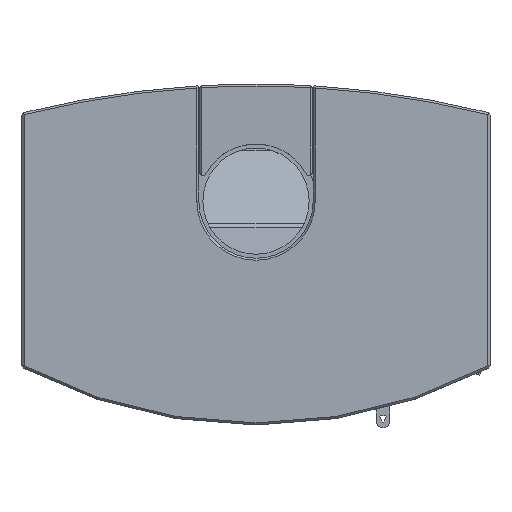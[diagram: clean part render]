
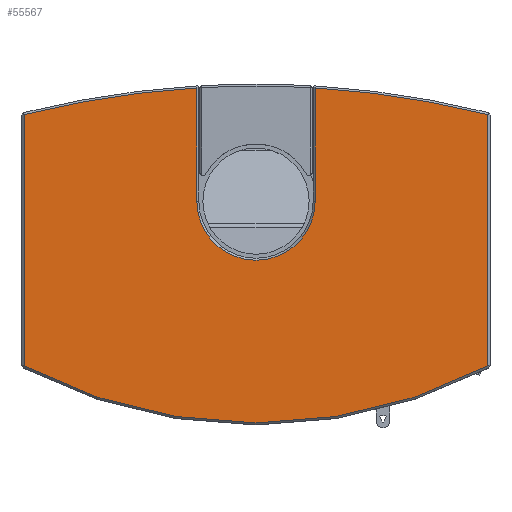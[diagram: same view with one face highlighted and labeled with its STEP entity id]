
A CAD part, top view. The second image highlights one B-rep face of the part: STEP entity #55567.
In plain terms, the highlighted planar face has unit normal (0, 0, 1).
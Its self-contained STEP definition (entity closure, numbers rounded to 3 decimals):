
#2913=CIRCLE('',#58958,88.);
#2914=CIRCLE('',#58959,1427.);
#2915=CIRCLE('',#58960,744.904);
#2916=CIRCLE('',#58961,1427.);
#6143=FACE_OUTER_BOUND('',#9223,.T.);
#9223=EDGE_LOOP('',(#46719,#46720,#46721,#46722,#46723,#46724,#46725,#46726));
#14360=LINE('',#92865,#19834);
#14361=LINE('',#92869,#19835);
#14362=LINE('',#92873,#19836);
#14363=LINE('',#92877,#19837);
#19834=VECTOR('',#70234,10.);
#19835=VECTOR('',#70237,10.);
#19836=VECTOR('',#70240,10.);
#19837=VECTOR('',#70243,10.);
#24969=VERTEX_POINT('',#92863);
#24970=VERTEX_POINT('',#92864);
#24971=VERTEX_POINT('',#92866);
#24972=VERTEX_POINT('',#92868);
#24973=VERTEX_POINT('',#92870);
#24974=VERTEX_POINT('',#92872);
#24975=VERTEX_POINT('',#92874);
#24976=VERTEX_POINT('',#92876);
#32316=EDGE_CURVE('',#24969,#24970,#14360,.T.);
#32317=EDGE_CURVE('',#24971,#24969,#2913,.T.);
#32318=EDGE_CURVE('',#24972,#24971,#14361,.T.);
#32319=EDGE_CURVE('',#24973,#24972,#2914,.T.);
#32320=EDGE_CURVE('',#24974,#24973,#14362,.T.);
#32321=EDGE_CURVE('',#24975,#24974,#2915,.T.);
#32322=EDGE_CURVE('',#24976,#24975,#14363,.T.);
#32323=EDGE_CURVE('',#24970,#24976,#2916,.T.);
#46719=ORIENTED_EDGE('',*,*,#32316,.F.);
#46720=ORIENTED_EDGE('',*,*,#32317,.F.);
#46721=ORIENTED_EDGE('',*,*,#32318,.F.);
#46722=ORIENTED_EDGE('',*,*,#32319,.F.);
#46723=ORIENTED_EDGE('',*,*,#32320,.F.);
#46724=ORIENTED_EDGE('',*,*,#32321,.F.);
#46725=ORIENTED_EDGE('',*,*,#32322,.F.);
#46726=ORIENTED_EDGE('',*,*,#32323,.F.);
#50248=PLANE('',#58957);
#55567=ADVANCED_FACE('',(#6143),#50248,.T.);
#58957=AXIS2_PLACEMENT_3D('',#92862,#70232,#70233);
#58958=AXIS2_PLACEMENT_3D('',#92867,#70235,#70236);
#58959=AXIS2_PLACEMENT_3D('',#92871,#70238,#70239);
#58960=AXIS2_PLACEMENT_3D('',#92875,#70241,#70242);
#58961=AXIS2_PLACEMENT_3D('',#92878,#70244,#70245);
#70232=DIRECTION('center_axis',(0.,0.,
1.));
#70233=DIRECTION('ref_axis',(1.,0.,0.));
#70234=DIRECTION('',(0.,1.,0.));
#70235=DIRECTION('center_axis',(0.,0.,
1.));
#70236=DIRECTION('ref_axis',(0.028,-1.,0.));
#70237=DIRECTION('',(0.,-1.,0.));
#70238=DIRECTION('center_axis',(0.,0.,
-1.));
#70239=DIRECTION('ref_axis',(0.243,0.97,0.));
#70240=DIRECTION('',(0.,1.,0.));
#70241=DIRECTION('center_axis',(0.,0.,
-1.));
#70242=DIRECTION('ref_axis',(-0.465,-0.885,0.));
#70243=DIRECTION('',(0.,-1.,0.));
#70244=DIRECTION('center_axis',(0.,0.,
-1.));
#70245=DIRECTION('ref_axis',(0.243,0.97,0.));
#92862=CARTESIAN_POINT('Origin',(0.,-6.5,
66.));
#92863=CARTESIAN_POINT('',(88.,74.,66.));
#92864=CARTESIAN_POINT('',(88.,242.284,66.));
#92865=CARTESIAN_POINT('',(88.,133.75,66.));
#92866=CARTESIAN_POINT('',(-88.,74.,66.));
#92867=CARTESIAN_POINT('Origin',(0.,74.,
66.));
#92868=CARTESIAN_POINT('',(-88.,242.284,66.));
#92869=CARTESIAN_POINT('',(-88.,33.75,66.));
#92870=CARTESIAN_POINT('',(-345.,202.667,66.));
#92871=CARTESIAN_POINT('Origin',(0.,-1182.,
66.));
#92872=CARTESIAN_POINT('',(-345.,-171.195,66.));
#92873=CARTESIAN_POINT('',(-345.,-89.755,66.));
#92874=CARTESIAN_POINT('',(345.,-171.195,66.));
#92875=CARTESIAN_POINT('Origin',(0.,489.,
66.));
#92876=CARTESIAN_POINT('',(345.,202.667,66.));
#92877=CARTESIAN_POINT('',(345.,99.255,66.));
#92878=CARTESIAN_POINT('Origin',(0.,-1182.,
66.));
